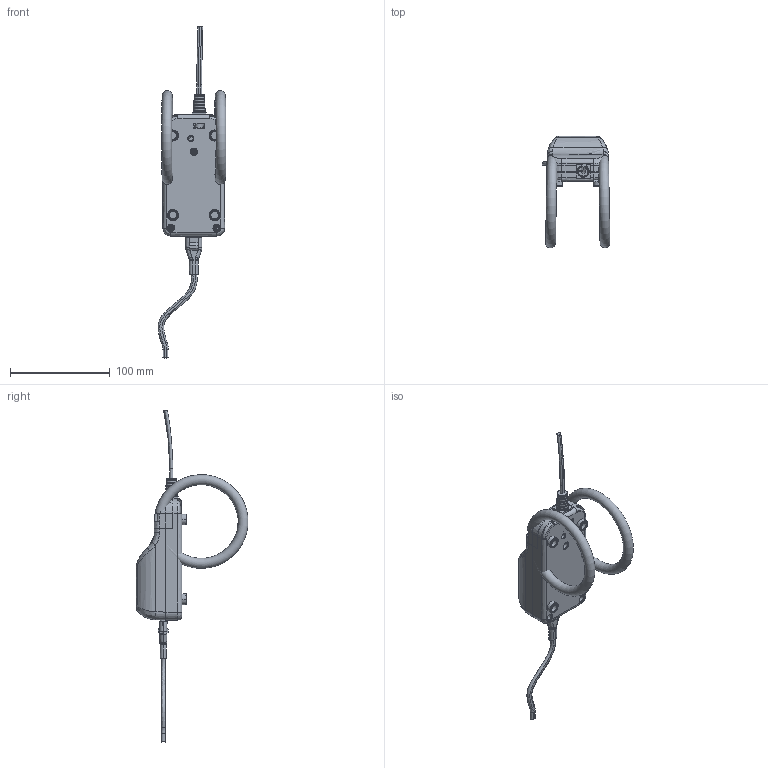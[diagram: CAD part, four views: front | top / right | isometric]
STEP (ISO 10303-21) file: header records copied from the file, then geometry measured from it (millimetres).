
FILE_DESCRIPTION((''),'2;1');
FILE_NAME('2','2014-06-06T',('tony'),(''),'PRO/ENGINEER BY PARAMETRIC TECHNOLOGY CORPORATION, 2008090','PRO/ENGINEER BY PARAMETRIC TECHNOLOGY CORPORATION, 2008090','');
FILE_SCHEMA(('CONFIG_CONTROL_DESIGN'));
Products named in the file (1): 2
Bounding box: 68.29 x 112.52 x 333.68 mm (x, y, z)
Surface area: 97185 mm2 (no closed solid volume)
Topology: 0 solids, 0 shells, 1392 faces, 7407 edges, 7271 vertices
Faces by surface type: bspline 1237, torus 127, sphere 28
Entity records: 124836 total; most frequent: CARTESIAN_POINT 61797, DIRECTION 9747, TRIMMED_CURVE 8341, VECTOR 7245, LINE 7245, DEFINITIONAL_REPRESENTATION 7156, PCURVE 7156, COMPOSITE_CURVE_SEGMENT 7156
